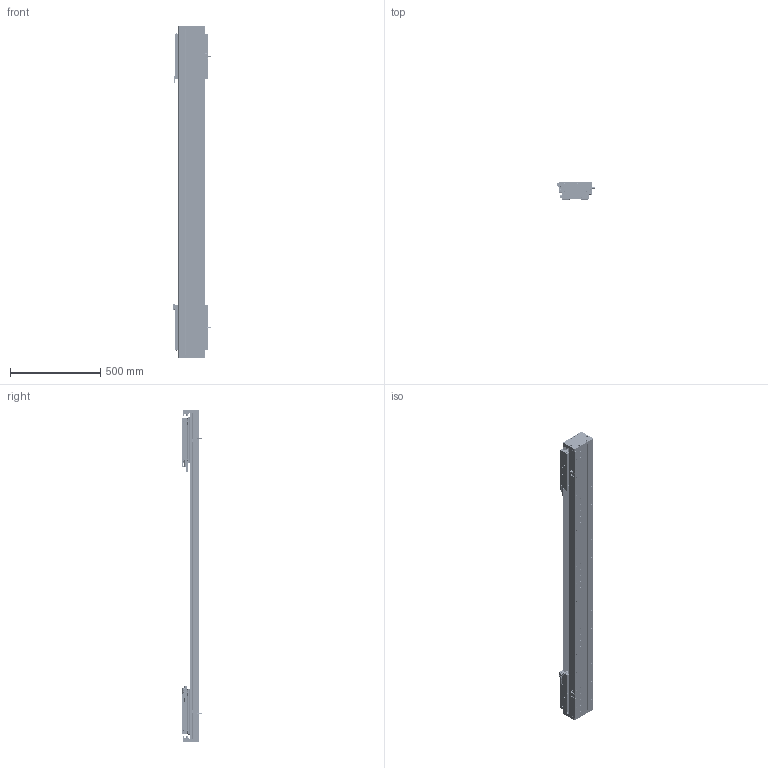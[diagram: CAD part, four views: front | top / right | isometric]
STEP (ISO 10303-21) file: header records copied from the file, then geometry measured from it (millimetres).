
FILE_DESCRIPTION (( 'STEP AP203' ), '1' );
FILE_NAME ('DA-C145-2-C3-T1220-C010-0.2 眻盄萇儂.STEP', '2025-08-13T10:19:56', ( '' ), ( '' ), 'SwSTEP 2.0', 'SolidWorks 2019', '' );
FILE_SCHEMA (( 'CONFIG_CONTROL_DESIGN' ));
Length unit declared in the file: millimetre
Products named in the file (38): 复件 半圆头内六角螺钉 M3×6^CU145-W 滚珠滑台; DKW-GYP-ZJ-00 笢潔嫖萇覜茼え; IU-CU145-L-00 菁釱(L1800); 葩璃 PM-T45^DA-C145-2-C3-T-C010-0.2; 葩璃 XD-U-02L 棠掑喜^DA-C145-2-C3-T-C010-0.2; 66245-CU145-HT-W-00 賑雄怢啣(3D芞祧)(00); 复件 DA145-C3-YB-B-00 压板B^CU145-W 滚珠滑台; DKW168-HXJ-ZJ-00 笢潔滅袉砎蝶; 葩璃 DA95-HXJ-00 遣喳砎蝶^DA-C145-2-C3-T-C010-0.2; 复件 DA146 钢带垫块^复件 CU145 钢带组件_DA-C145-2-C3-T-C010-0.2; 葩璃 CKMA01-W060-TRL^DA-C145-2-C3-T-C010-0.2; IU-CU145-L 菁釱絳寢; 葩璃 DA95-GT-T-00^IU-CU145-L 菁釱絳寢; CU145-W 幗紩賑怢; 葩璃 DMA-010-0.2 黍杅芛^DA-C145-2-C3-T-C010-0.2; 复件 DA145-C3-DK-00 挡块^CU145-W 滚珠滑台; 葩璃 CKM03-W060-C1C2-TP-0.2^DA-C145-2-C3-T-C010-0.2; 复件 DA146 钢带拉块^复件 CU145 钢带组件_DA-C145-2-C3-T-C010-0.2; CU145-W 幗紩賑怢-1; 葩璃 DA145-C3-DP-A-00 菜えA^CU145-W 幗紩賑怢; 复件 纯铜油杯 6x6mm^CU145-W 滚珠滑台; 复件 DA95-HK-GT-00 滑块钢轨^CU145-W-00 一体化滑动台板; 葩璃 DA145-C3-DP-B-00 菜えB^CU145-W 幗紩賑怢; 复件 内六角平端紧定螺钉 GB.T77-2000 M5×10^CU145-W 滚珠滑台; 葩璃 鞠褒情蹟譫 M3^DA-C145-2-C3-T-C010-0.2; CU145-W-00 珨极趙賑雄怢啣-1; 葩璃 CU145 詩湍郪璃^DA-C145-2-C3-T-C010-0.2; CU145-W-00 珨极趙賑雄怢啣; 葩璃 PM-Y65^DA-C145-2-C3-T-C010-0.2; 复件 DA145-DG 钢带端盖^复件 CU145 钢带组件_DA-C145-2-C3-T-C010-0.2; 复件 DA145 钢带^复件 CU145 钢带组件_DA-C145-2-C3-T-C010-0.2; DKW-KGZ-ZJ-00 中间光电开关支架; 复件 DA95-MFP-01 密封片^CU145-W 滚珠滑台; 复件 DA145-GYP-00 光电感应片^DA-C145-2-C3-T-C010-0.2; TAY01-M8; DA-C145-2-C3-T1220-C010-0.2 眻盄萇儂; 复件 DA95-DB-00  挡板^CU145-W 滚珠滑台; 复件 DA145-C3-YB-A-00 压板A^CU145-W 滚珠滑台
Assembly tree (180 placements, depth 4):
  DA-C145-2-C3-T1220-C010-0.2 眻盄萇儂
    IU-CU145-L 菁釱絳寢
      IU-CU145-L-00 菁釱(L1800)
      葩璃 DA95-GT-T-00^IU-CU145-L 菁釱絳寢  x4
    葩璃 CU145 詩湍郪璃^DA-C145-2-C3-T-C010-0.2
      复件 DA145-DG 钢带端盖^复件 CU145 钢带组件_DA-C145-2-C3-T-C010-0.2  x2
      复件 DA146 钢带拉块^复件 CU145 钢带组件_DA-C145-2-C3-T-C010-0.2  x2
      复件 DA146 钢带垫块^复件 CU145 钢带组件_DA-C145-2-C3-T-C010-0.2  x2
      复件 DA145 钢带^复件 CU145 钢带组件_DA-C145-2-C3-T-C010-0.2
    CU145-W 幗紩賑怢
      CU145-W-00 珨极趙賑雄怢啣
        66245-CU145-HT-W-00 賑雄怢啣(3D芞祧)(00)
        复件 DA95-HK-GT-00 滑块钢轨^CU145-W-00 一体化滑动台板  x8
      复件 DA95-MFP-01 密封片^CU145-W 滚珠滑台  x8
      复件 DA95-DB-00  挡板^CU145-W 滚珠滑台  x8
      复件 内六角平端紧定螺钉 GB.T77-2000 M5×10^CU145-W 滚珠滑台  x4
      复件 纯铜油杯 6x6mm^CU145-W 滚珠滑台  x4
      复件 半圆头内六角螺钉 M3×6^CU145-W 滚珠滑台  x16
      复件 DA145-C3-DK-00 挡块^CU145-W 滚珠滑台  x4
      葩璃 DA145-C3-DP-B-00 菜えB^CU145-W 幗紩賑怢  x2
      复件 DA145-C3-YB-B-00 压板B^CU145-W 滚珠滑台  x2
      葩璃 DA145-C3-DP-A-00 菜えA^CU145-W 幗紩賑怢  x3
      复件 DA145-C3-YB-A-00 压板A^CU145-W 滚珠滑台  x3
      TAY01-M8  x4
    CU145-W 幗紩賑怢-1
      CU145-W-00 珨极趙賑雄怢啣-1
        66245-CU145-HT-W-00 賑雄怢啣(3D芞祧)(00)
        复件 DA95-HK-GT-00 滑块钢轨^CU145-W-00 一体化滑动台板  x8
      复件 DA95-MFP-01 密封片^CU145-W 滚珠滑台  x8
      复件 DA95-DB-00  挡板^CU145-W 滚珠滑台  x8
      复件 内六角平端紧定螺钉 GB.T77-2000 M5×10^CU145-W 滚珠滑台  x4
      复件 纯铜油杯 6x6mm^CU145-W 滚珠滑台  x4
      复件 半圆头内六角螺钉 M3×6^CU145-W 滚珠滑台  x16
      复件 DA145-C3-DK-00 挡块^CU145-W 滚珠滑台  x4
      葩璃 DA145-C3-DP-B-00 菜えB^CU145-W 幗紩賑怢  x2
      复件 DA145-C3-YB-B-00 压板B^CU145-W 滚珠滑台  x2
      葩璃 DA145-C3-DP-A-00 菜えA^CU145-W 幗紩賑怢  x3
      复件 DA145-C3-YB-A-00 压板A^CU145-W 滚珠滑台  x3
      TAY01-M8  x4
    葩璃 CKMA01-W060-TRL^DA-C145-2-C3-T-C010-0.2
    葩璃 PM-T45^DA-C145-2-C3-T-C010-0.2  x4
    葩璃 XD-U-02L 棠掑喜^DA-C145-2-C3-T-C010-0.2
    葩璃 DA95-HXJ-00 遣喳砎蝶^DA-C145-2-C3-T-C010-0.2  x4
    葩璃 CKM03-W060-C1C2-TP-0.2^DA-C145-2-C3-T-C010-0.2  x2
    葩璃 DMA-010-0.2 黍杅芛^DA-C145-2-C3-T-C010-0.2  x2
    复件 DA145-GYP-00 光电感应片^DA-C145-2-C3-T-C010-0.2  x2
    DKW-GYP-ZJ-00 笢潔嫖萇覜茼え
    DKW-KGZ-ZJ-00 中间光电开关支架
    葩璃 PM-Y65^DA-C145-2-C3-T-C010-0.2
    葩璃 鞠褒情蹟譫 M3^DA-C145-2-C3-T-C010-0.2  x8
    DKW168-HXJ-ZJ-00 笢潔滅袉砎蝶
Bounding box: 213.7 x 108.45 x 1836 mm (x, y, z)
Volume: 11252509.9 mm3; surface area: 3408653.4 mm2
Topology: 175 solids, 239 shells, 7260 faces, 19185 edges, 11809 vertices
Faces by surface type: cylinder 2983, plane 2937, cone 1184, torus 140, sphere 8, bspline 8
Entity records: 121648 total; most frequent: CARTESIAN_POINT 32372, ORIENTED_EDGE 17056, DIRECTION 16817, EDGE_CURVE 8528, AXIS2_PLACEMENT_3D 6157, VERTEX_POINT 5508, LINE 4503, VECTOR 4503
